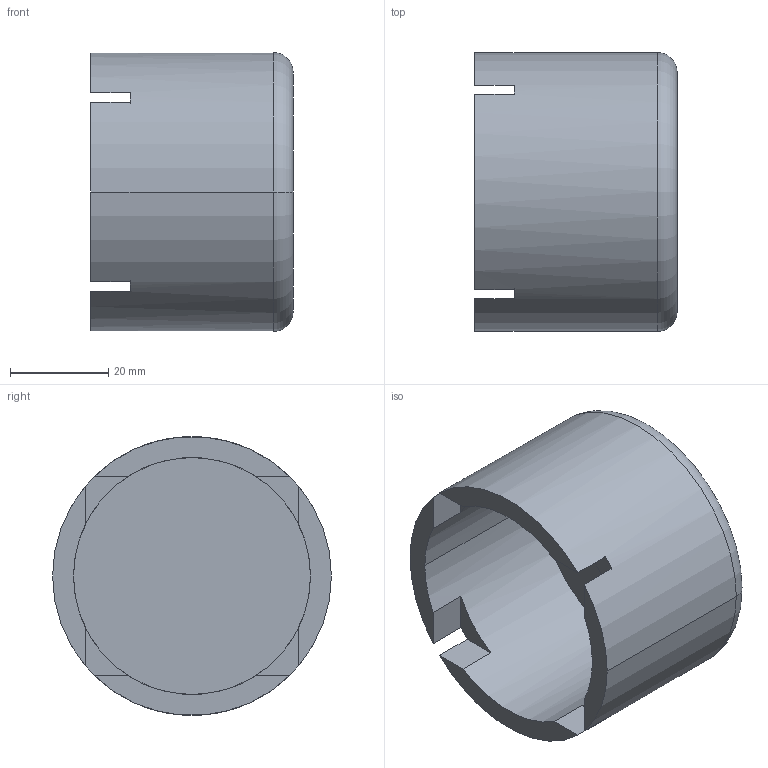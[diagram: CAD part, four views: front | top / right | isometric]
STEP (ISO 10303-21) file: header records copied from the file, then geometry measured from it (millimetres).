
FILE_DESCRIPTION(/* description */ ('VariCAD 2010-2.03 AP-203'),/* implementation_level */ '2;1');
FILE_NAME(/* name */ '0353-70-25',/* time_stamp */ '2010-11-23T11:29:50-07:00',/* author */ (''),/* organization */ (''),/* preprocessor_version */ 'ST-DEVELOPER v12',/* originating_system */ 'VariCAD 2010-2.03; kernel version (20100102)',/* authorisation */ '');
FILE_SCHEMA (('CONFIG_CONTROL_DESIGN'));
Length unit declared in the file: millimetre
Products named in the file (1): Part
Bounding box: 41.2 x 56.8 x 56.8 mm (x, y, z)
Volume: 41249.6 mm3; surface area: 17159.6 mm2
Topology: 1 solids, 1 shells, 24 faces, 64 edges, 42 vertices
Faces by surface type: plane 18, cylinder 4, torus 2
Entity records: 806 total; most frequent: DIRECTION 144, CARTESIAN_POINT 132, ORIENTED_EDGE 128, EDGE_CURVE 64, AXIS2_PLACEMENT_3D 54, VERTEX_POINT 42, LINE 36, VECTOR 36
